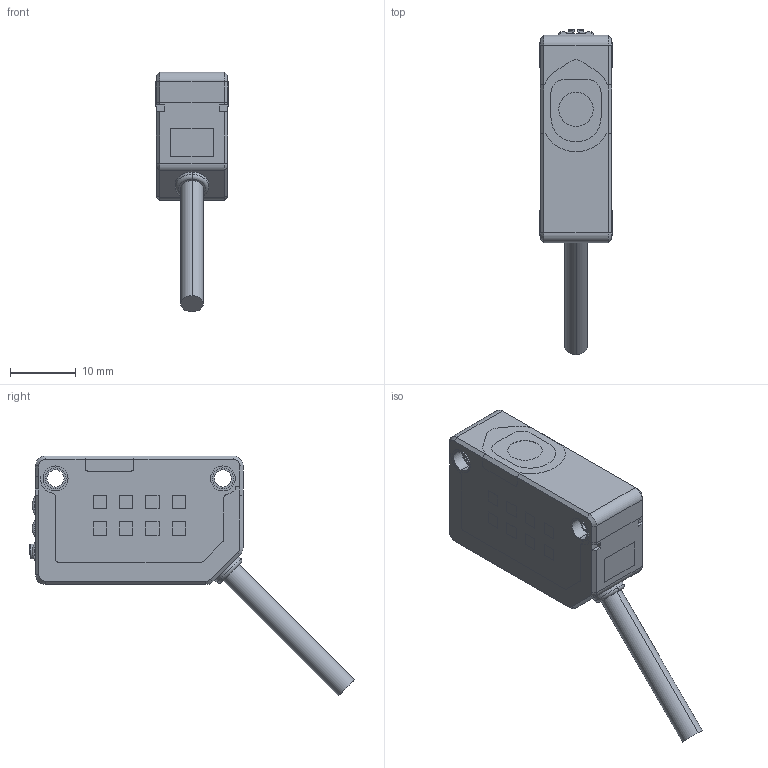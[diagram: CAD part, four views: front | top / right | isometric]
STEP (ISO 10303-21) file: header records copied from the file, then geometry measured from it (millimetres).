
FILE_DESCRIPTION(/* description */ (''),/* implementation_level */ '2;1');
FILE_NAME(/* name */ 'S3Z T51_CABLE.stp',/* time_stamp */ '2017-04-21T17:40:54+02:00',/* author */ (''),/* organization */ (''),/* preprocessor_version */ 'ST-DEVELOPER v16',/* originating_system */ 'SIEMENS PLM Software NX 10.0',/* authorisation */ '');
FILE_SCHEMA (('AUTOMOTIVE_DESIGN { 1 0 10303 214 3 1 1 1 }'));
Length unit declared in the file: millimetre
Products named in the file (1): adic23ACCA93rj4p
Bounding box: 11 x 49.31 x 36.41 mm (x, y, z)
Volume: 6592.7 mm3; surface area: 2682.3 mm2
Topology: 1 solids, 1 shells, 234 faces, 605 edges, 413 vertices
Faces by surface type: plane 169, cylinder 43, torus 12, cone 10
Entity records: 9162 total; most frequent: CARTESIAN_POINT 1624, ORIENTED_EDGE 1210, DIRECTION 1189, EDGE_CURVE 605, LINE 435, VECTOR 435, VERTEX_POINT 413, AXIS2_PLACEMENT_3D 377
